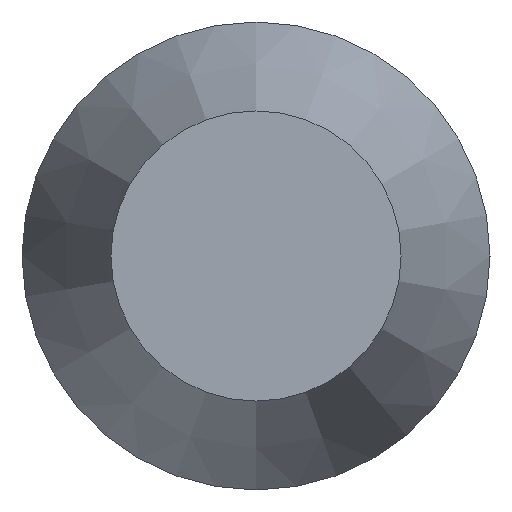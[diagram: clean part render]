
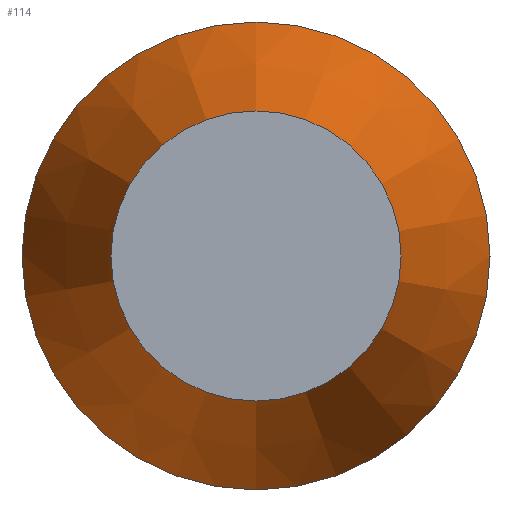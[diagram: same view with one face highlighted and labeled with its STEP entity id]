
A CAD part, left-side view. The second image highlights one B-rep face of the part: STEP entity #114.
In plain terms, the highlighted conical face has half-angle 20 degrees and reference radius 5 mm.
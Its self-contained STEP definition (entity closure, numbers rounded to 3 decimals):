
#95=CONICAL_SURFACE('',#181,5.,20.);
#102=FACE_BOUND('',#128,.T.);
#103=FACE_BOUND('',#129,.T.);
#114=ADVANCED_FACE('',(#102,#103),#95,.T.);
#128=EDGE_LOOP('',(#142));
#129=EDGE_LOOP('',(#143));
#142=ORIENTED_EDGE('',*,*,#162,.F.);
#143=ORIENTED_EDGE('',*,*,#163,.T.);
#155=VERTEX_POINT('',#229);
#156=VERTEX_POINT('',#232);
#162=EDGE_CURVE('',#155,#155,#169,.T.);
#163=EDGE_CURVE('',#156,#156,#170,.T.);
#169=CIRCLE('',#178,2.325);
#170=CIRCLE('',#180,5.);
#178=AXIS2_PLACEMENT_3D('',#228,#198,#199);
#180=AXIS2_PLACEMENT_3D('',#231,#202,#203);
#181=AXIS2_PLACEMENT_3D('',#233,#204,#205);
#198=DIRECTION('',(-1.,0.,0.));
#199=DIRECTION('',(0.,0.,1.));
#202=DIRECTION('',(-1.,0.,0.));
#203=DIRECTION('',(0.,0.,1.));
#204=DIRECTION('',(1.,0.,0.));
#205=DIRECTION('',(0.,0.,-1.));
#228=CARTESIAN_POINT('',(7913.912,6103.288,0.));
#229=CARTESIAN_POINT('',(7913.912,6103.288,2.325));
#231=CARTESIAN_POINT('',(7921.261,6103.288,0.));
#232=CARTESIAN_POINT('',(7921.261,6103.288,5.));
#233=CARTESIAN_POINT('',(7921.261,6103.288,0.));
